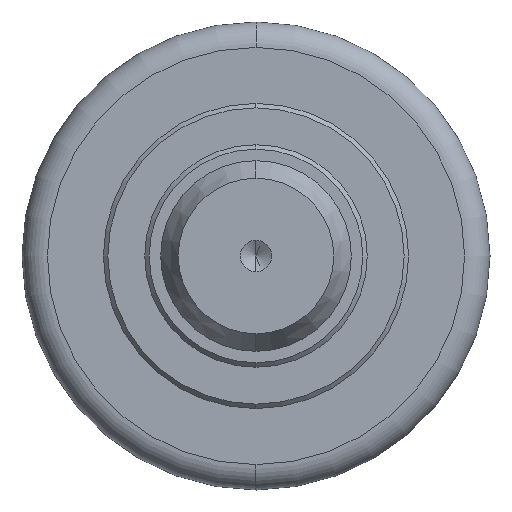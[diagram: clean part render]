
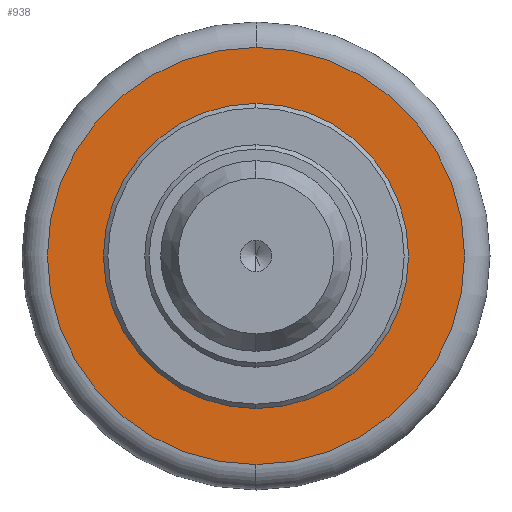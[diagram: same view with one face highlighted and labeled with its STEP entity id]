
A CAD part, left-side view. The second image highlights one B-rep face of the part: STEP entity #938.
In plain terms, the highlighted planar face has unit normal (-1, 0, 0).
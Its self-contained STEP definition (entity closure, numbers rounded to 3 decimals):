
#6 = VERTEX_POINT ( 'NONE', #588 ) ;
#14 = ORIENTED_EDGE ( 'NONE', *, *, #74, .T. ) ;
#17 = EDGE_CURVE ( 'NONE', #480, #731, #64, .T. ) ;
#22 = DIRECTION ( 'NONE',  ( -1., 0., 0. ) ) ;
#24 = CARTESIAN_POINT ( 'NONE',  ( -2.65, 0., 0. ) ) ;
#64 = CIRCLE ( 'NONE', #377, 23.75 ) ;
#74 = EDGE_CURVE ( 'NONE', #731, #480, #798, .T. ) ;
#104 = CARTESIAN_POINT ( 'NONE',  ( -2.65, 0., 23.75 ) ) ;
#106 = DIRECTION ( 'NONE',  ( 0., 0., -1. ) ) ;
#124 = EDGE_CURVE ( 'NONE', #795, #6, #432, .T. ) ;
#157 = FACE_BOUND ( 'NONE', #884, .T. ) ;
#187 = DIRECTION ( 'NONE',  ( -1., 0., 0. ) ) ;
#190 = DIRECTION ( 'NONE',  ( 0., 0., 1. ) ) ;
#211 = AXIS2_PLACEMENT_3D ( 'NONE', #531, #22, #887 ) ;
#280 = AXIS2_PLACEMENT_3D ( 'NONE', #24, #866, #946 ) ;
#330 = CIRCLE ( 'NONE', #280, 32.809 ) ;
#343 = DIRECTION ( 'NONE',  ( 1., 0., 0. ) ) ;
#377 = AXIS2_PLACEMENT_3D ( 'NONE', #538, #343, #106 ) ;
#379 = DIRECTION ( 'NONE',  ( 0., 0., -1. ) ) ;
#432 = CIRCLE ( 'NONE', #790, 32.809 ) ;
#480 = VERTEX_POINT ( 'NONE', #104 ) ;
#526 = DIRECTION ( 'NONE',  ( 1., 0., 0. ) ) ;
#531 = CARTESIAN_POINT ( 'NONE',  ( -2.65, 32.959, 0. ) ) ;
#538 = CARTESIAN_POINT ( 'NONE',  ( -2.65, 0., 0. ) ) ;
#560 = ORIENTED_EDGE ( 'NONE', *, *, #750, .T. ) ;
#577 = FACE_OUTER_BOUND ( 'NONE', #818, .T. ) ;
#588 = CARTESIAN_POINT ( 'NONE',  ( -2.65, 0., -32.809 ) ) ;
#638 = CARTESIAN_POINT ( 'NONE',  ( -2.65, 0., 0. ) ) ;
#656 = CARTESIAN_POINT ( 'NONE',  ( -2.65, 0., 32.809 ) ) ;
#687 = AXIS2_PLACEMENT_3D ( 'NONE', #638, #526, #379 ) ;
#731 = VERTEX_POINT ( 'NONE', #953 ) ;
#750 = EDGE_CURVE ( 'NONE', #6, #795, #330, .T. ) ;
#753 = PLANE ( 'NONE',  #211 ) ;
#780 = ORIENTED_EDGE ( 'NONE', *, *, #124, .T. ) ;
#790 = AXIS2_PLACEMENT_3D ( 'NONE', #882, #187, #190 ) ;
#795 = VERTEX_POINT ( 'NONE', #656 ) ;
#798 = CIRCLE ( 'NONE', #687, 23.75 ) ;
#818 = EDGE_LOOP ( 'NONE', ( #780, #560 ) ) ;
#866 = DIRECTION ( 'NONE',  ( -1., 0., 0. ) ) ;
#882 = CARTESIAN_POINT ( 'NONE',  ( -2.65, 0., 0. ) ) ;
#884 = EDGE_LOOP ( 'NONE', ( #14, #917 ) ) ;
#887 = DIRECTION ( 'NONE',  ( 0., 0., 1. ) ) ;
#917 = ORIENTED_EDGE ( 'NONE', *, *, #17, .T. ) ;
#938 = ADVANCED_FACE ( 'NONE', ( #577, #157 ), #753, .T. ) ;
#946 = DIRECTION ( 'NONE',  ( 0., 0., 1. ) ) ;
#953 = CARTESIAN_POINT ( 'NONE',  ( -2.65, 0., -23.75 ) ) ;
